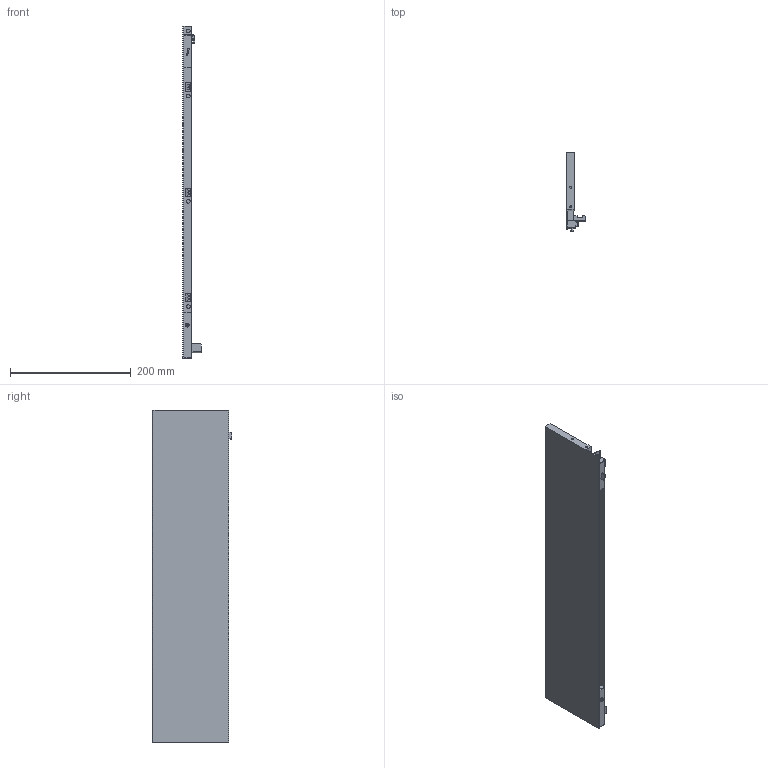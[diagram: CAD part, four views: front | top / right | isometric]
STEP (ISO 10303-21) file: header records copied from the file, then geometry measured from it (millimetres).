
FILE_DESCRIPTION (( 'STEP AP203' ), '1' );
FILE_NAME ('HT125501-L.STEP', '2021-03-16T02:24:28', ( 'Users' ), ( 'Microsoft' ), 'SwSTEP 2.0', 'SolidWorks 2018', '' );
FILE_SCHEMA (( 'CONFIG_CONTROL_DESIGN' ));
Length unit declared in the file: millimetre
Products named in the file (1): HT125501-L
Bounding box: 31.3 x 131 x 549 mm (x, y, z)
Volume: 738454.5 mm3; surface area: 182486.1 mm2
Topology: 1 solids, 8 shells, 402 faces, 1019 edges, 633 vertices
Faces by surface type: plane 199, cylinder 139, torus 29, bspline 23, cone 6, sphere 6
Entity records: 12554 total; most frequent: CARTESIAN_POINT 2952, ORIENTED_EDGE 2020, DIRECTION 1947, EDGE_CURVE 1010, AXIS2_PLACEMENT_3D 660, VERTEX_POINT 633, VECTOR 627, LINE 627
